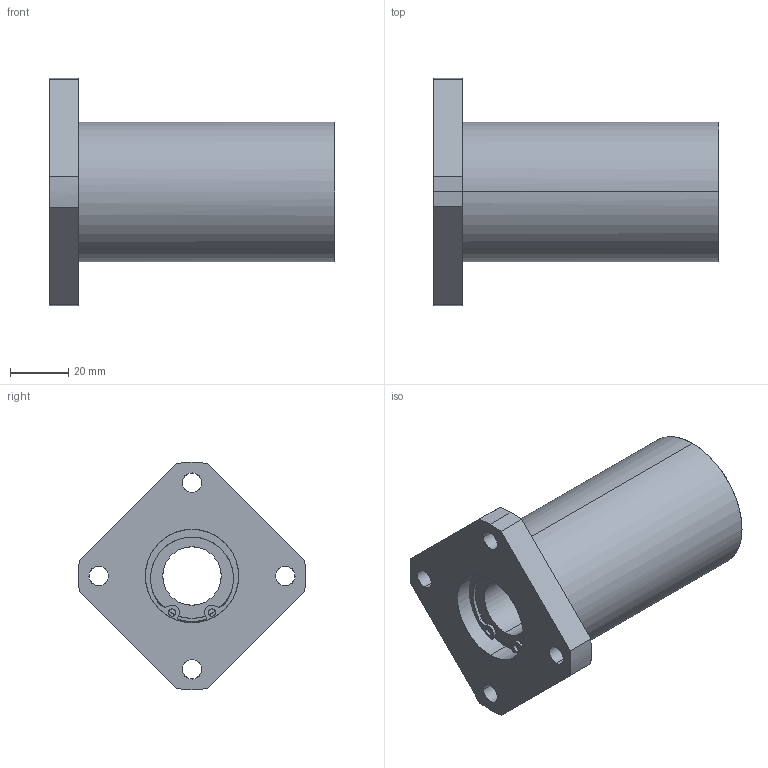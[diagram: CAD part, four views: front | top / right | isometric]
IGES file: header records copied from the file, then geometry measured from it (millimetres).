
Global section: file name: No Iges File Name specified; native system: AutoDesk Inventor R10; preprocessor: AutoDesk Inventor Iges Exporter R10; author: No Author specified; organization: No Organization specified; date: 20101214.135802; units: millimetre
Bounding box: 98 x 77.99 x 78 mm (x, y, z)
Surface area: 33387.5 mm2 (no closed solid volume)
Topology: 0 solids, 0 shells, 119 faces, 856 edges, 856 vertices
Faces by surface type: bspline 119
